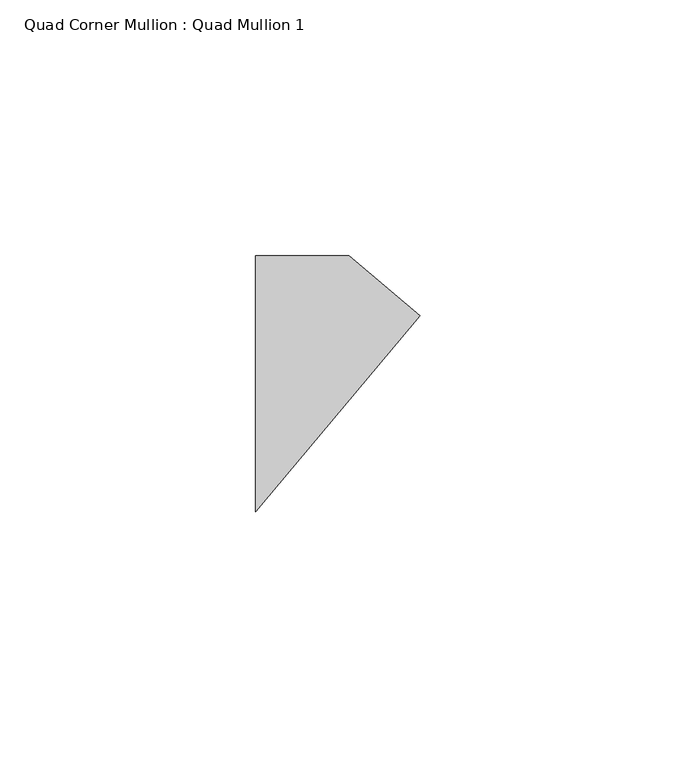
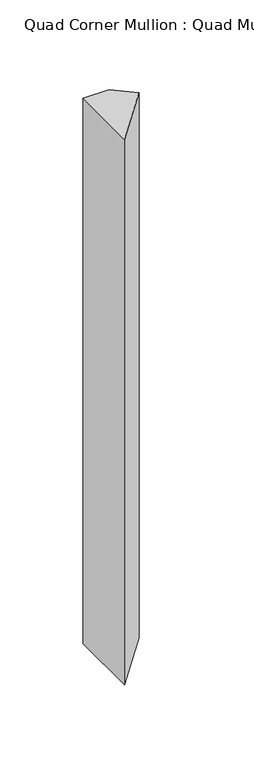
"""IFC4 building model written with IfcOpenShell, lengths in millimetres: member geometry, Quad Corner Mullion : Quad Mullion 1."""

from ifc_helpers import new_model, si_unit, frame, origin, place, context, project, spatial, polyline, outline, extrude, source, transform, mapped, element, save


def quad_corner_mullion_quad_mullion_1_09d4e17c(model_context):
    return source(origin(), model_context, "Body", "SweptSolid", [
        extrude(outline(polyline([(23.0401246, 13.3022222), (-9.0992559, -25.0), (-9.0992559, 25.0), (9.0992559, 25.0), (23.0401246, 13.3022222)])), frame((0.0, 0.0, -400.0), z_axis=(0.0, 0.0, 1.0), x_axis=(1.0, 0.0, 0.0)), (0.0, 0.0, 1.0), 400.0),
    ])


if __name__ == "__main__":
    model = new_model("IFC4")
    model_context = context("Model", 3, world=origin())
    ifc_project = project(units=[si_unit("LENGTHUNIT", "METRE", prefix="MILLI")], contexts=[model_context])
    site = spatial("IfcSite", under=ifc_project)
    building = spatial("IfcBuilding", under=site)
    placement = place(None, origin())
    quad_corner_mullion_quad_mullion_1_shape = quad_corner_mullion_quad_mullion_1_09d4e17c(model_context)
    element("IfcMember", 1, ObjectType="Quad Corner Mullion : Quad Mullion 1", at=placement, inside=building, context=model_context, shape_type="MappedRepresentation", body=[
        mapped(quad_corner_mullion_quad_mullion_1_shape, transform((0.0, 0.0, 0.0), x_axis=(1.0, 0.0, 0.0), y_axis=(0.0, 1.0, 0.0), z_axis=(0.0, 0.0, 1.0))),
    ])
    save(model, "model.ifc")
